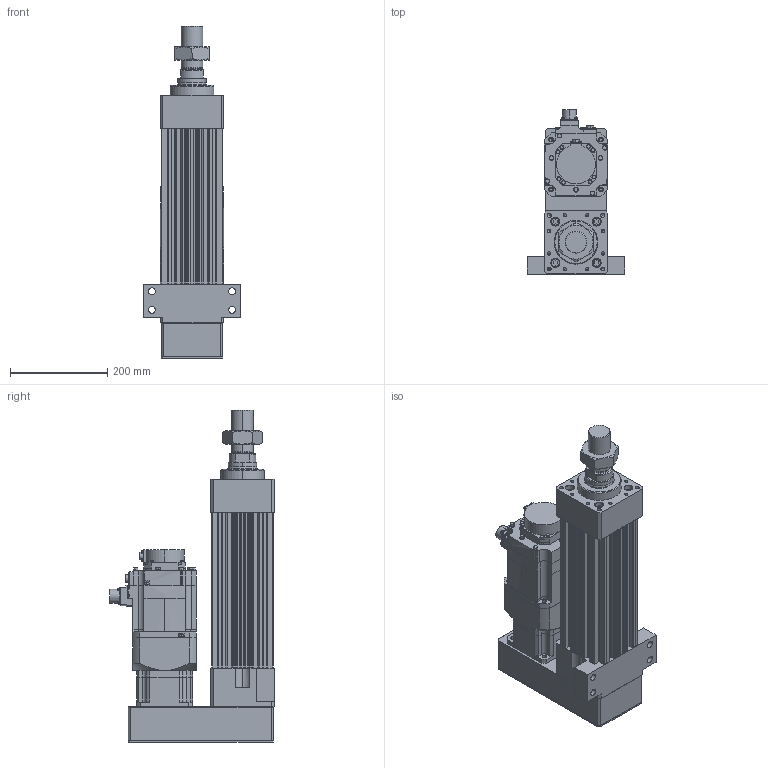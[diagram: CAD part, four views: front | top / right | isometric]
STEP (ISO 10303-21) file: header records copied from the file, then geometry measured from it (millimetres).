
FILE_DESCRIPTION (( 'STEP AP203' ), '1' );
FILE_NAME ('HES130NS(FS)(HS)-P100-W015G00-M-FFC.STEP', '2026-06-10T06:10:06', ( 'tms' ), ( '' ), 'SwSTEP 2.0', 'SolidWorks 2013', '' );
FILE_SCHEMA (( 'CONFIG_CONTROL_DESIGN' ));
Length unit declared in the file: millimetre
Products named in the file (8): HES130-FFC-100; M45X1.5P; HES130-P-G120; AB1152; HG-SR152B; HES130-M-ROD-100; HES130NS(FS)(HS)-P100-W015G00-M-FFC; AB1151
Assembly tree (7 placements, depth 2):
  HES130NS(FS)(HS)-P100-W015G00-M-FFC
    HES130-FFC-100
    HES130-M-ROD-100
    M45X1.5P
    HES130-P-G120
    AB1151
    AB1152
    HG-SR152B
Bounding box: 200 x 337.49 x 682 mm (x, y, z)
Volume: 9120057.8 mm3; surface area: 1073987.3 mm2
Topology: 5 solids, 12 shells, 1244 faces, 3150 edges, 2027 vertices
Faces by surface type: cylinder 584, plane 540, cone 106, bspline 10, torus 4
Entity records: 39199 total; most frequent: CARTESIAN_POINT 7512, DIRECTION 6807, ORIENTED_EDGE 6208, EDGE_CURVE 3114, AXIS2_PLACEMENT_3D 2543, VERTEX_POINT 2027, VECTOR 1721, LINE 1721
